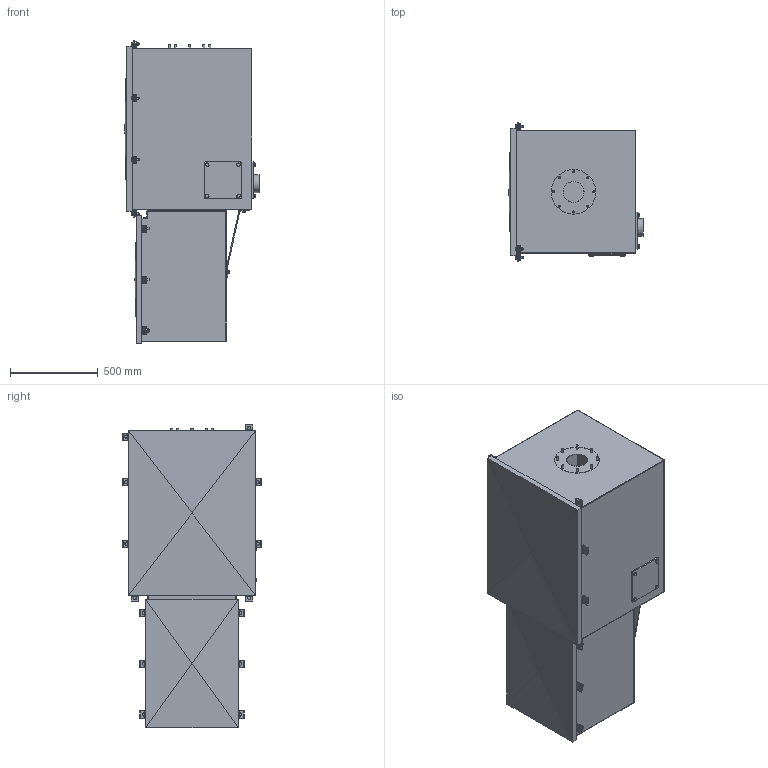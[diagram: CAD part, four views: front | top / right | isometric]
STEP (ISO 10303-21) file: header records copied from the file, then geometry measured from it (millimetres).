
FILE_DESCRIPTION(/* description */ (''),/* implementation_level */ '2;1');
FILE_NAME(/* name */ 'K:\MANDARIC\77362.stp',/* time_stamp */ '2017-11-30T16:33:22+01:00',/* author */ ('milman01'),/* organization */ ('Hillmar Industries Ltd.'),/* preprocessor_version */ 'ST-DEVELOPER v16.1',/* originating_system */ 'Autodesk Inventor 2016',/* authorisation */ '');
FILE_SCHEMA (('AUTOMOTIVE_DESIGN { 1 0 10303 214 3 1 1 }'));
Length unit declared in the file: millimetre
Products named in the file (1): 77362 ENP4-06-10KV-FO ENC & FO WITH COVER & GLAND
Bounding box: 764.36 x 791.97 x 1729.08 mm (x, y, z)
Volume: 48076895.8 mm3; surface area: 11418435.4 mm2
Topology: 1 solids, 1 shells, 1139 faces, 2681 edges, 1700 vertices
Faces by surface type: plane 666, cone 252, cylinder 221
Full cylindrical faces by diameter (mm): 9.188 x18, 10 x37, 11 x4, 11.053 x16, 12 x24, 15.4 x18, 17.2 x16, 101.6 x1, 118.3 x1, 120 x1, 254 x1
Entity records: 31586 total; most frequent: CARTESIAN_POINT 6080, DIRECTION 4952, ORIENTED_EDGE 4868, EDGE_CURVE 2424, AXIS2_PLACEMENT_3D 1832, VERTEX_POINT 1628, EDGE_LOOP 1534, LINE 1288
